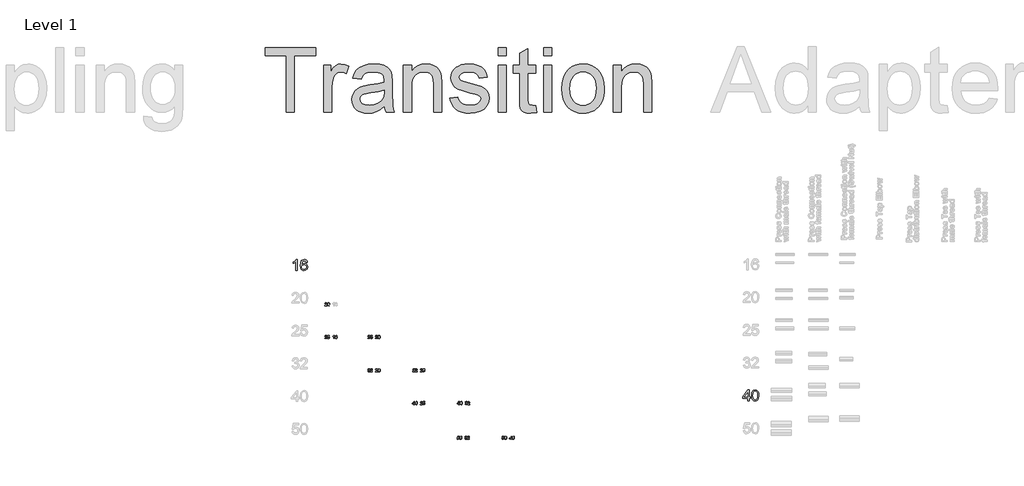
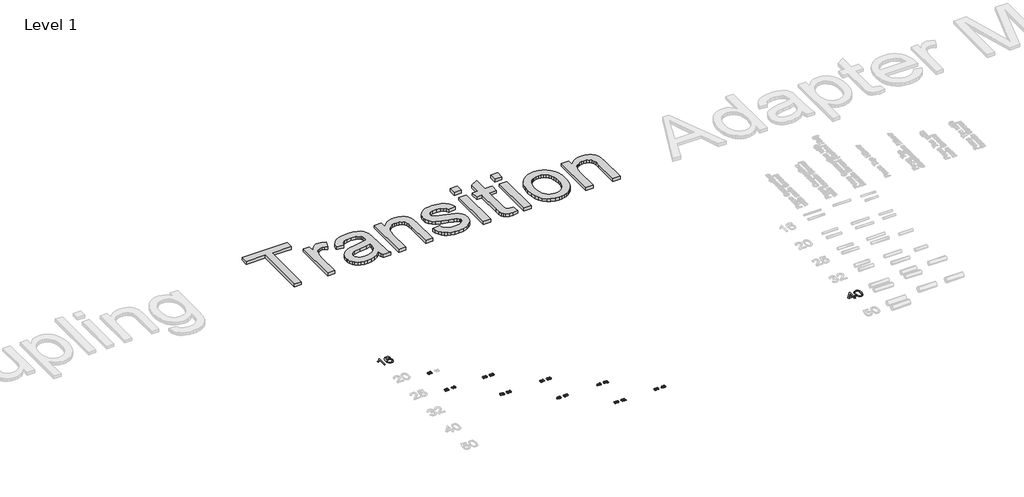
# One storey, part 40 of 58: 20 proxies.
"""IFC4 building model written with IfcOpenShell, lengths in millimetres."""

from ifc_helpers import new_model, si_unit, frame, origin, place, context, project, spatial, polyline, outline, extrude, element, save

model = new_model("IFC4")

# Units and contexts
model_context = context("Model", 3, world=origin())
ifc_project = project(units=[si_unit("LENGTHUNIT", "METRE", prefix="MILLI")], contexts=[model_context])

# Site, building, storey
site = spatial("IfcSite", under=ifc_project)
building = spatial("IfcBuilding", under=site)
storey = spatial("IfcBuildingStorey", under=building, Name="Level 1", Elevation=27.3876384)

# Proxies
placement = place(None, origin())
element("IfcBuildingElementProxy", 1, Name="100mm Arial", ObjectType="100mm Arial", at=placement, inside=storey, context=model_context, shape_type="SweptSolid", body=[
    extrude(outline(polyline([(29112.1702959, 28945.9751784), (29112.1702959, 28969.5196261), (29066.6510304, 28969.5196261), (29066.6510304, 28982.0766649), (29115.3095556, 29044.8618587), (29124.7273347, 29044.8618587), (29124.7273347, 28982.0766649), (29137.2843734, 28982.0766649), (29137.2843734, 28969.5196261), (29124.7273347, 28969.5196261), (29124.7273347, 28945.9751784), (29112.1702959, 28945.9751784)]), holes=[polyline([(29112.1702959, 28982.0766649), (29112.1702959, 29020.8759526), (29082.1020742, 28982.0766649), (29112.1702959, 28982.0766649)])]), frame((0.0, 0.0, 27.3876384), z_axis=(0.0, 0.0, 1.0), x_axis=(1.0, 0.0, 0.0)), (0.0, 0.0, 1.0), 2.0),
    extrude(outline(polyline([(29148.2717824, 28995.3939931), (29151.9628651, 29024.2972552), (29162.9257485, 29040.9623096), (29181.2340091, 29046.4314885), (29195.900238, 29043.194127), (29206.0292556, 29033.862187), (29211.9153675, 29018.9997544), (29214.1962359, 28995.3939931), (29210.5419414, 28966.6133583), (29199.6158462, 28949.9115157), (29191.3844865, 28945.7820404), (29181.2340091, 28944.4055486), (29168.186461, 28946.7967815), (29158.2781726, 28953.9704804), (29150.7733799, 28970.9604972), (29148.2717824, 28995.3939931)]), holes=[polyline([(29160.8288211, 28995.4185186), (29162.3003491, 28975.6663211), (29166.7149331, 28964.2343881), (29173.287758, 28958.7805375), (29181.2340091, 28956.9625873), (29189.1802602, 28958.7866689), (29195.7530852, 28964.2589136), (29200.1676692, 28975.6969779), (29201.6391971, 28995.4185186), (29200.2167201, 29014.7261919), (29195.9492889, 29026.2470297), (29189.3887267, 29031.9675948), (29181.0868563, 29033.8744498), (29173.2264444, 29032.1944553), (29166.9111368, 29027.154472), (29162.3494001, 29014.9162643), (29160.8288211, 28995.4185186)])]), frame((0.0, 0.0, 27.3876384), z_axis=(0.0, 0.0, 1.0), x_axis=(1.0, 0.0, 0.0)), (0.0, 0.0, 1.0), 2.0),
])
element("IfcBuildingElementProxy", 2, Name="100mm Arial", ObjectType="100mm Arial", at=placement, inside=storey, context=model_context, shape_type="SweptSolid", body=[
    extrude(outline(polyline([(24991.5703727, 30140.2967064), (24979.0133339, 30140.2967064), (24979.0133339, 30218.5819949), (24967.1184827, 30210.1084463), (24953.8992564, 30203.7686133), (24953.8992564, 30215.638939), (24972.3056189, 30227.3866373), (24983.4769688, 30240.7530165), (24991.5703727, 30240.7530165), (24991.5703727, 30140.2967064)])), frame((0.0, 0.0, 27.3876384), z_axis=(0.0, 0.0, 1.0), x_axis=(1.0, 0.0, 0.0)), (0.0, 0.0, 1.0), 2.0),
    extrude(outline(polyline([(25085.7481635, 30214.0693091), (25073.1911247, 30212.4996793), (25068.4331842, 30222.9720534), (25055.85162, 30228.1959777), (25044.5208545, 30225.1548199), (25035.949204, 30213.7382153), (25032.3807487, 30191.3587273), (25043.4539967, 30201.3773803), (25057.1759952, 30204.65153), (25068.7765407, 30202.4135812), (25078.5131509, 30195.6997348), (25085.1166327, 30185.4419585), (25087.3177933, 30172.5722201), (25083.1729895, 30155.2449781), (25071.7686476, 30142.9822449), (25055.3120597, 30138.7270765), (25041.0658295, 30141.5475051), (25029.7197356, 30150.008791), (25022.2977163, 30164.9448), (25019.8237099, 30187.189398), (25022.5705621, 30212.1992423), (25030.8111188, 30229.2996237), (25042.0621765, 30237.8896683), (25056.6364349, 30240.7530165), (25067.6545007, 30238.9810516), (25076.4775372, 30233.6651567), (25082.6579547, 30225.2222649), (25085.7481635, 30214.0693091)]), holes=[polyline([(25032.3807487, 30172.7684238), (25035.2870164, 30161.8913795), (25043.0125383, 30153.9941793), (25054.3310411, 30151.2841153), (25062.617583, 30152.6881982), (25069.13216, 30156.9004471), (25073.3536059, 30163.522323), (25074.7607545, 30172.1552871), (25073.372, 30180.4418291), (25069.2057364, 30186.7602023), (25062.5807948, 30190.760919), (25053.8160063, 30192.0944913), (25038.6224799, 30186.7602023), (25033.9411815, 30180.5951132), (25032.3807487, 30172.7684238)])]), frame((0.0, 0.0, 27.3876384), z_axis=(0.0, 0.0, 1.0), x_axis=(1.0, 0.0, 0.0)), (0.0, 0.0, 1.0), 2.0),
])
element("IfcBuildingElementProxy", 3, Name="30mm Arial", ObjectType="30mm Arial", at=placement, inside=storey, context=model_context, shape_type="SweptSolid", body=[
    extrude(outline(polyline([(25264.9129392, 29819.4254174), (25264.9129392, 29815.6583057), (25245.1356031, 29815.6583057), (25245.5402733, 29818.2555526), (25247.8284993, 29822.2544299), (25252.5447465, 29826.6211892), (25259.0489002, 29832.897256), (25260.6749386, 29837.1646872), (25259.1408707, 29840.6190991), (25255.1346357, 29842.0280872), (25250.9591751, 29840.6522085), (25249.3736037, 29836.8483087), (25245.6064921, 29837.3191976), (25248.4943657, 29843.624695), (25255.2155698, 29845.7951988), (25261.9588468, 29843.3818929), (25264.4420502, 29837.392774), (25263.772505, 29833.8206399), (25261.5468189, 29830.1271046), (25256.1499901, 29824.9657202), (25251.8163401, 29821.3420826), (25250.1167253, 29819.4254174), (25264.9129392, 29819.4254174)])), frame((0.0, 0.0, 27.3876384), z_axis=(0.0, 0.0, 1.0), x_axis=(1.0, 0.0, 0.0)), (0.0, 0.0, 1.0), 2.0),
    extrude(outline(polyline([(25268.6800508, 29830.4839502), (25269.7873756, 29839.1549288), (25273.0762407, 29844.1544451), (25278.5687188, 29845.7951988), (25282.9685875, 29844.8239903), (25286.0072928, 29842.0244083), (25287.7731264, 29837.5656786), (25288.4573869, 29830.4839502), (25287.3610985, 29821.8497597), (25284.0832699, 29816.839207), (25278.5687188, 29815.1874168), (25271.6819679, 29818.0568964), (25268.6800508, 29830.4839502)]), holes=[polyline([(25272.4471624, 29830.4913078), (25274.212996, 29821.1360687), (25278.5687188, 29818.9545284), (25282.9244417, 29821.1434263), (25284.6902752, 29830.4913078), (25282.9833028, 29839.7398612), (25278.524573, 29842.0280872), (25274.2718571, 29840.0120938), (25272.4471624, 29830.4913078)])]), frame((0.0, 0.0, 27.3876384), z_axis=(0.0, 0.0, 1.0), x_axis=(1.0, 0.0, 0.0)), (0.0, 0.0, 1.0), 2.0),
])
element("IfcBuildingElementProxy", 4, Name="30mm Arial", ObjectType="30mm Arial", at=placement, inside=storey, context=model_context, shape_type="SweptSolid", body=[
    extrude(outline(polyline([(25329.7331607, 29515.6583057), (25325.9660491, 29515.6583057), (25325.9660491, 29539.1438923), (25322.3975937, 29536.6018277), (25318.4318258, 29534.6998778), (25318.4318258, 29538.2609755), (25323.9537345, 29541.785285), (25327.3051395, 29545.7951988), (25329.7331607, 29545.7951988), (25329.7331607, 29515.6583057)])), frame((0.0, 0.0, 27.3876384), z_axis=(0.0, 0.0, 1.0), x_axis=(1.0, 0.0, 0.0)), (0.0, 0.0, 1.0), 2.0),
    extrude(outline(polyline([(25357.9864979, 29537.7900866), (25354.2193863, 29537.3191976), (25352.7920041, 29540.4609099), (25349.0175349, 29542.0280872), (25345.6183052, 29541.1157398), (25343.0468101, 29537.6907584), (25341.9762735, 29530.976912), (25345.2982479, 29533.9825079), (25349.4148474, 29534.9647529), (25355.8159941, 29532.2792143), (25358.4573869, 29525.3409599), (25357.2139457, 29520.1427873), (25353.7926432, 29516.4639673), (25348.8556668, 29515.1874168), (25341.1779696, 29518.5719312), (25338.2091619, 29529.7261132), (25341.5053845, 29542.359181), (25349.2529794, 29545.7951988), (25355.20531, 29543.6688409), (25357.9864979, 29537.7900866)]), holes=[polyline([(25341.9762735, 29525.399821), (25342.8481538, 29522.1367077), (25345.1658104, 29519.7675476), (25348.5613612, 29518.9545284), (25353.0016969, 29520.639428), (25354.6902752, 29525.21588), (25353.0237698, 29529.5973545), (25348.4068508, 29531.1976412), (25343.8487928, 29529.5973545), (25341.9762735, 29525.399821)])]), frame((0.0, 0.0, 27.3876384), z_axis=(0.0, 0.0, 1.0), x_axis=(1.0, 0.0, 0.0)), (0.0, 0.0, 1.0), 2.0),
])
element("IfcBuildingElementProxy", 5, Name="30mm Arial", ObjectType="30mm Arial", at=placement, inside=storey, context=model_context, shape_type="SweptSolid", body=[
    extrude(outline(polyline([(25264.9129392, 29519.4254174), (25264.9129392, 29515.6583057), (25245.1356031, 29515.6583057), (25245.5402733, 29518.2555526), (25247.8284993, 29522.2544299), (25252.5447465, 29526.6211892), (25259.0489002, 29532.897256), (25260.6749386, 29537.1646872), (25259.1408707, 29540.6190991), (25255.1346357, 29542.0280872), (25250.9591751, 29540.6522085), (25249.3736037, 29536.8483087), (25245.6064921, 29537.3191976), (25248.4943657, 29543.624695), (25255.2155698, 29545.7951988), (25261.9588468, 29543.3818929), (25264.4420502, 29537.392774), (25263.772505, 29533.8206399), (25261.5468189, 29530.1271046), (25256.1499901, 29524.9657202), (25251.8163401, 29521.3420826), (25250.1167253, 29519.4254174), (25264.9129392, 29519.4254174)])), frame((0.0, 0.0, 27.3876384), z_axis=(0.0, 0.0, 1.0), x_axis=(1.0, 0.0, 0.0)), (0.0, 0.0, 1.0), 2.0),
    extrude(outline(polyline([(25268.6800508, 29523.663418), (25272.4471624, 29524.1343069), (25274.3454335, 29520.2531519), (25278.2817709, 29518.9545284), (25283.0053757, 29520.760829), (25284.6902752, 29525.5543314), (25283.1120615, 29530.0277765), (25278.340632, 29531.6685302), (25275.0333729, 29531.0137002), (25272.9180514, 29529.3140854), (25269.1509398, 29529.7849744), (25272.4471624, 29545.3243098), (25287.04472, 29545.3243098), (25287.04472, 29541.5571982), (25275.4932254, 29541.5571982), (25273.8819022, 29533.2577804), (25279.3927745, 29535.4356418), (25285.8343882, 29532.735388), (25288.4573869, 29525.7897759), (25286.0955845, 29518.800018), (25278.2670556, 29515.1874168), (25271.619428, 29517.5087522), (25268.6800508, 29523.663418)])), frame((0.0, 0.0, 27.3876384), z_axis=(0.0, 0.0, 1.0), x_axis=(1.0, 0.0, 0.0)), (0.0, 0.0, 1.0), 2.0),
])
element("IfcBuildingElementProxy", 6, Name="30mm Arial", ObjectType="30mm Arial", at=placement, inside=storey, context=model_context, shape_type="SweptSolid", body=[
    extrude(outline(polyline([(25727.3514627, 29519.4254174), (25727.3514627, 29515.6583057), (25707.5741267, 29515.6583057), (25707.9787969, 29518.2555526), (25710.2670229, 29522.2544299), (25714.9832701, 29526.6211892), (25721.4874237, 29532.897256), (25723.1134621, 29537.1646872), (25721.5793942, 29540.6190991), (25717.5731593, 29542.0280872), (25713.3976987, 29540.6522085), (25711.8121273, 29536.8483087), (25708.0450156, 29537.3191976), (25710.9328893, 29543.624695), (25717.6540933, 29545.7951988), (25724.3973703, 29543.3818929), (25726.8805738, 29537.392774), (25726.2110285, 29533.8206399), (25723.9853425, 29530.1271046), (25718.5885136, 29524.9657202), (25714.2548637, 29521.3420826), (25712.5552489, 29519.4254174), (25727.3514627, 29519.4254174)])), frame((0.0, 0.0, 27.3876384), z_axis=(0.0, 0.0, 1.0), x_axis=(1.0, 0.0, 0.0)), (0.0, 0.0, 1.0), 2.0),
    extrude(outline(polyline([(25731.1185744, 29530.4839502), (25732.2258992, 29539.1549288), (25735.5147642, 29544.1544451), (25741.0072424, 29545.7951988), (25745.4071111, 29544.8239903), (25748.4458163, 29542.0244083), (25750.2116499, 29537.5656786), (25750.8959104, 29530.4839502), (25749.7996221, 29521.8497597), (25746.5217935, 29516.839207), (25741.0072424, 29515.1874168), (25734.1204914, 29518.0568964), (25731.1185744, 29530.4839502)]), holes=[polyline([(25734.885686, 29530.4913078), (25736.6515196, 29521.1360687), (25741.0072424, 29518.9545284), (25745.3629652, 29521.1434263), (25747.1287988, 29530.4913078), (25745.4218263, 29539.7398612), (25740.9630966, 29542.0280872), (25736.7103807, 29540.0120938), (25734.885686, 29530.4913078)])]), frame((0.0, 0.0, 27.3876384), z_axis=(0.0, 0.0, 1.0), x_axis=(1.0, 0.0, 0.0)), (0.0, 0.0, 1.0), 2.0),
])
element("IfcBuildingElementProxy", 7, Name="30mm Arial", ObjectType="30mm Arial", at=placement, inside=storey, context=model_context, shape_type="SweptSolid", body=[
    extrude(outline(polyline([(25657.3514627, 29519.4254174), (25657.3514627, 29515.6583057), (25637.5741267, 29515.6583057), (25637.9787969, 29518.2555526), (25640.2670229, 29522.2544299), (25644.9832701, 29526.6211892), (25651.4874237, 29532.897256), (25653.1134621, 29537.1646872), (25651.5793942, 29540.6190991), (25647.5731593, 29542.0280872), (25643.3976987, 29540.6522085), (25641.8121273, 29536.8483087), (25638.0450156, 29537.3191976), (25640.9328893, 29543.624695), (25647.6540933, 29545.7951988), (25654.3973703, 29543.3818929), (25656.8805738, 29537.392774), (25656.2110285, 29533.8206399), (25653.9853425, 29530.1271046), (25648.5885136, 29524.9657202), (25644.2548637, 29521.3420826), (25642.5552489, 29519.4254174), (25657.3514627, 29519.4254174)])), frame((0.0, 0.0, 27.3876384), z_axis=(0.0, 0.0, 1.0), x_axis=(1.0, 0.0, 0.0)), (0.0, 0.0, 1.0), 2.0),
    extrude(outline(polyline([(25661.1185744, 29523.663418), (25664.885686, 29524.1343069), (25666.7839571, 29520.2531519), (25670.7202944, 29518.9545284), (25675.4438993, 29520.760829), (25677.1287988, 29525.5543314), (25675.550585, 29530.0277765), (25670.7791556, 29531.6685302), (25667.4718964, 29531.0137002), (25665.3565749, 29529.3140854), (25661.5894633, 29529.7849744), (25664.885686, 29545.3243098), (25679.4832436, 29545.3243098), (25679.4832436, 29541.5571982), (25667.9317489, 29541.5571982), (25666.3204258, 29533.2577804), (25671.8312981, 29535.4356418), (25678.2729118, 29532.735388), (25680.8959104, 29525.7897759), (25678.534108, 29518.800018), (25670.7055792, 29515.1874168), (25664.0579515, 29517.5087522), (25661.1185744, 29523.663418)])), frame((0.0, 0.0, 27.3876384), z_axis=(0.0, 0.0, 1.0), x_axis=(1.0, 0.0, 0.0)), (0.0, 0.0, 1.0), 2.0),
])
element("IfcBuildingElementProxy", 8, Name="30mm Arial", ObjectType="30mm Arial", at=placement, inside=storey, context=model_context, shape_type="SweptSolid", body=[
    extrude(outline(polyline([(25727.3514627, 29214.4254174), (25727.3514627, 29210.6583057), (25707.5741267, 29210.6583057), (25707.9787969, 29213.2555526), (25710.2670229, 29217.2544299), (25714.9832701, 29221.6211892), (25721.4874237, 29227.897256), (25723.1134621, 29232.1646872), (25721.5793942, 29235.6190991), (25717.5731593, 29237.0280872), (25713.3976987, 29235.6522085), (25711.8121273, 29231.8483087), (25708.0450156, 29232.3191976), (25710.9328893, 29238.624695), (25717.6540933, 29240.7951988), (25724.3973703, 29238.3818929), (25726.8805738, 29232.392774), (25726.2110285, 29228.8206399), (25723.9853425, 29225.1271046), (25718.5885136, 29219.9657202), (25714.2548637, 29216.3420826), (25712.5552489, 29214.4254174), (25727.3514627, 29214.4254174)])), frame((0.0, 0.0, 27.3876384), z_axis=(0.0, 0.0, 1.0), x_axis=(1.0, 0.0, 0.0)), (0.0, 0.0, 1.0), 2.0),
    extrude(outline(polyline([(25731.1185744, 29225.4839502), (25732.2258992, 29234.1549288), (25735.5147642, 29239.1544451), (25741.0072424, 29240.7951988), (25745.4071111, 29239.8239903), (25748.4458163, 29237.0244083), (25750.2116499, 29232.5656786), (25750.8959104, 29225.4839502), (25749.7996221, 29216.8497597), (25746.5217935, 29211.839207), (25741.0072424, 29210.1874168), (25734.1204914, 29213.0568964), (25731.1185744, 29225.4839502)]), holes=[polyline([(25734.885686, 29225.4913078), (25736.6515196, 29216.1360687), (25741.0072424, 29213.9545284), (25745.3629652, 29216.1434263), (25747.1287988, 29225.4913078), (25745.4218263, 29234.7398612), (25740.9630966, 29237.0280872), (25736.7103807, 29235.0120938), (25734.885686, 29225.4913078)])]), frame((0.0, 0.0, 27.3876384), z_axis=(0.0, 0.0, 1.0), x_axis=(1.0, 0.0, 0.0)), (0.0, 0.0, 1.0), 2.0),
])
element("IfcBuildingElementProxy", 9, Name="30mm Arial", ObjectType="30mm Arial", at=placement, inside=storey, context=model_context, shape_type="SweptSolid", body=[
    extrude(outline(polyline([(25638.0450156, 29218.663418), (25641.8121273, 29219.1343069), (25643.8906605, 29215.168539), (25647.7791732, 29213.9545284), (25652.3556252, 29215.6247127), (25654.0552401, 29219.7597063), (25652.3703405, 29223.6555766), (25648.0881941, 29225.1970022), (25645.4468014, 29224.7849744), (25645.8661868, 29228.552086), (25650.7443021, 29229.5895132), (25652.6425732, 29232.9151665), (25651.2666945, 29235.8619012), (25647.7203121, 29237.0280872), (25644.1297838, 29235.8508648), (25642.2830162, 29232.3191976), (25638.5159046, 29232.7900866), (25641.5987557, 29238.6982714), (25647.5878746, 29240.7951988), (25652.1312172, 29239.7614504), (25655.3097177, 29236.9361167), (25656.4096848, 29233.1358957), (25655.3649, 29229.6630896), (25652.2746912, 29227.1688497), (25656.3802543, 29224.5936757), (25657.8223517, 29219.6934876), (25654.9381568, 29212.9538894), (25647.6467357, 29210.1874168), (25641.0395751, 29212.5492192), (25638.0450156, 29218.663418)])), frame((0.0, 0.0, 27.3876384), z_axis=(0.0, 0.0, 1.0), x_axis=(1.0, 0.0, 0.0)), (0.0, 0.0, 1.0), 2.0),
    extrude(outline(polyline([(25680.4250215, 29214.4254174), (25680.4250215, 29210.6583057), (25660.6476854, 29210.6583057), (25661.0523556, 29213.2555526), (25663.3405816, 29217.2544299), (25668.0568288, 29221.6211892), (25674.5609825, 29227.897256), (25676.1870209, 29232.1646872), (25674.652953, 29235.6190991), (25670.646718, 29237.0280872), (25666.4712574, 29235.6522085), (25664.885686, 29231.8483087), (25661.1185744, 29232.3191976), (25664.006448, 29238.624695), (25670.7276521, 29240.7951988), (25677.470929, 29238.3818929), (25679.9541325, 29232.392774), (25679.2845873, 29228.8206399), (25677.0589012, 29225.1271046), (25671.6620723, 29219.9657202), (25667.3284224, 29216.3420826), (25665.6288076, 29214.4254174), (25680.4250215, 29214.4254174)])), frame((0.0, 0.0, 27.3876384), z_axis=(0.0, 0.0, 1.0), x_axis=(1.0, 0.0, 0.0)), (0.0, 0.0, 1.0), 2.0),
])
element("IfcBuildingElementProxy", 10, Name="30mm Arial", ObjectType="30mm Arial", at=placement, inside=storey, context=model_context, shape_type="SweptSolid", body=[
    extrude(outline(polyline([(26137.3514627, 29214.4254174), (26137.3514627, 29210.6583057), (26117.5741267, 29210.6583057), (26117.9787969, 29213.2555526), (26120.2670229, 29217.2544299), (26124.9832701, 29221.6211892), (26131.4874237, 29227.897256), (26133.1134621, 29232.1646872), (26131.5793942, 29235.6190991), (26127.5731593, 29237.0280872), (26123.3976987, 29235.6522085), (26121.8121273, 29231.8483087), (26118.0450156, 29232.3191976), (26120.9328893, 29238.624695), (26127.6540933, 29240.7951988), (26134.3973703, 29238.3818929), (26136.8805738, 29232.392774), (26136.2110285, 29228.8206399), (26133.9853425, 29225.1271046), (26128.5885136, 29219.9657202), (26124.2548637, 29216.3420826), (26122.5552489, 29214.4254174), (26137.3514627, 29214.4254174)])), frame((0.0, 0.0, 27.3876384), z_axis=(0.0, 0.0, 1.0), x_axis=(1.0, 0.0, 0.0)), (0.0, 0.0, 1.0), 2.0),
    extrude(outline(polyline([(26141.1185744, 29218.663418), (26144.885686, 29219.1343069), (26146.7839571, 29215.2531519), (26150.7202944, 29213.9545284), (26155.4438993, 29215.760829), (26157.1287988, 29220.5543314), (26155.550585, 29225.0277765), (26150.7791556, 29226.6685302), (26147.4718964, 29226.0137002), (26145.3565749, 29224.3140854), (26141.5894633, 29224.7849744), (26144.885686, 29240.3243098), (26159.4832436, 29240.3243098), (26159.4832436, 29236.5571982), (26147.9317489, 29236.5571982), (26146.3204258, 29228.2577804), (26151.8312981, 29230.4356418), (26158.2729118, 29227.735388), (26160.8959104, 29220.7897759), (26158.534108, 29213.800018), (26150.7055792, 29210.1874168), (26144.0579515, 29212.5087522), (26141.1185744, 29218.663418)])), frame((0.0, 0.0, 27.3876384), z_axis=(0.0, 0.0, 1.0), x_axis=(1.0, 0.0, 0.0)), (0.0, 0.0, 1.0), 2.0),
])
element("IfcBuildingElementProxy", 11, Name="30mm Arial", ObjectType="30mm Arial", at=placement, inside=storey, context=model_context, shape_type="SweptSolid", body=[
    extrude(outline(polyline([(26048.0450156, 29218.663418), (26051.8121273, 29219.1343069), (26053.8906605, 29215.168539), (26057.7791732, 29213.9545284), (26062.3556252, 29215.6247127), (26064.0552401, 29219.7597063), (26062.3703405, 29223.6555766), (26058.0881941, 29225.1970022), (26055.4468014, 29224.7849744), (26055.8661868, 29228.552086), (26060.7443021, 29229.5895132), (26062.6425732, 29232.9151665), (26061.2666945, 29235.8619012), (26057.7203121, 29237.0280872), (26054.1297838, 29235.8508648), (26052.2830162, 29232.3191976), (26048.5159046, 29232.7900866), (26051.5987557, 29238.6982714), (26057.5878746, 29240.7951988), (26062.1312172, 29239.7614504), (26065.3097177, 29236.9361167), (26066.4096848, 29233.1358957), (26065.3649, 29229.6630896), (26062.2746912, 29227.1688497), (26066.3802543, 29224.5936757), (26067.8223517, 29219.6934876), (26064.9381568, 29212.9538894), (26057.6467357, 29210.1874168), (26051.0395751, 29212.5492192), (26048.0450156, 29218.663418)])), frame((0.0, 0.0, 27.3876384), z_axis=(0.0, 0.0, 1.0), x_axis=(1.0, 0.0, 0.0)), (0.0, 0.0, 1.0), 2.0),
    extrude(outline(polyline([(26090.4250215, 29214.4254174), (26090.4250215, 29210.6583057), (26070.6476854, 29210.6583057), (26071.0523556, 29213.2555526), (26073.3405816, 29217.2544299), (26078.0568288, 29221.6211892), (26084.5609825, 29227.897256), (26086.1870209, 29232.1646872), (26084.652953, 29235.6190991), (26080.646718, 29237.0280872), (26076.4712574, 29235.6522085), (26074.885686, 29231.8483087), (26071.1185744, 29232.3191976), (26074.006448, 29238.624695), (26080.7276521, 29240.7951988), (26087.470929, 29238.3818929), (26089.9541325, 29232.392774), (26089.2845873, 29228.8206399), (26087.0589012, 29225.1271046), (26081.6620723, 29219.9657202), (26077.3284224, 29216.3420826), (26075.6288076, 29214.4254174), (26090.4250215, 29214.4254174)])), frame((0.0, 0.0, 27.3876384), z_axis=(0.0, 0.0, 1.0), x_axis=(1.0, 0.0, 0.0)), (0.0, 0.0, 1.0), 2.0),
])
element("IfcBuildingElementProxy", 12, Name="30mm Arial", ObjectType="30mm Arial", at=placement, inside=storey, context=model_context, shape_type="SweptSolid", body=[
    extrude(outline(polyline([(26137.1168566, 28914.4238163), (26137.1168566, 28910.6567047), (26117.3395206, 28910.6567047), (26117.7441908, 28913.2539516), (26120.0324168, 28917.2528288), (26124.7486639, 28921.6195881), (26131.2528176, 28927.895655), (26132.878856, 28932.1630861), (26131.3447881, 28935.617498), (26127.3385532, 28937.0264861), (26123.1630925, 28935.6506074), (26121.5775211, 28931.8467076), (26117.8104095, 28932.3175965), (26120.6982832, 28938.6230939), (26127.4194872, 28940.7935977), (26134.1627642, 28938.3802918), (26136.6459677, 28932.3911729), (26135.9764224, 28928.8190388), (26133.7507364, 28925.1255035), (26128.3539075, 28919.9641191), (26124.0202576, 28916.3404815), (26122.3206428, 28914.4238163), (26137.1168566, 28914.4238163)])), frame((0.0, 0.0, 27.3876384), z_axis=(0.0, 0.0, 1.0), x_axis=(1.0, 0.0, 0.0)), (0.0, 0.0, 1.0), 2.0),
    extrude(outline(polyline([(26140.8839683, 28918.6618169), (26144.6510799, 28919.1327058), (26146.549351, 28915.2515508), (26150.4856883, 28913.9529273), (26155.2092931, 28915.7592279), (26156.8941927, 28920.5527303), (26155.3159789, 28925.0261754), (26150.5445494, 28926.6669291), (26147.2372903, 28926.0120991), (26145.1219688, 28924.3124843), (26141.3548572, 28924.7833733), (26144.6510799, 28940.3227088), (26159.2486374, 28940.3227088), (26159.2486374, 28936.5555971), (26147.6971428, 28936.5555971), (26146.0858197, 28928.2561793), (26151.596692, 28930.4340407), (26158.0383057, 28927.7337869), (26160.6613043, 28920.7881748), (26158.2995019, 28913.7984169), (26150.470973, 28910.1858157), (26143.8233454, 28912.5071511), (26140.8839683, 28918.6618169)])), frame((0.0, 0.0, 27.3876384), z_axis=(0.0, 0.0, 1.0), x_axis=(1.0, 0.0, 0.0)), (0.0, 0.0, 1.0), 2.0),
])
element("IfcBuildingElementProxy", 13, Name="30mm Arial", ObjectType="30mm Arial", at=placement, inside=storey, context=model_context, shape_type="SweptSolid", body=[
    extrude(outline(polyline([(26060.0535223, 28910.6567047), (26060.0535223, 28917.720039), (26046.3977427, 28917.720039), (26046.3977427, 28921.4871506), (26060.9953002, 28940.3227088), (26063.8206339, 28940.3227088), (26063.8206339, 28921.4871506), (26067.5877456, 28921.4871506), (26067.5877456, 28917.720039), (26063.8206339, 28917.720039), (26063.8206339, 28910.6567047), (26060.0535223, 28910.6567047)]), holes=[polyline([(26060.0535223, 28921.4871506), (26060.0535223, 28933.1269369), (26051.0330558, 28921.4871506), (26060.0535223, 28921.4871506)])]), frame((0.0, 0.0, 27.3876384), z_axis=(0.0, 0.0, 1.0), x_axis=(1.0, 0.0, 0.0)), (0.0, 0.0, 1.0), 2.0),
    extrude(outline(polyline([(26070.8839683, 28925.4823491), (26071.9912931, 28934.1533277), (26075.2801581, 28939.152844), (26080.7726363, 28940.7935977), (26085.1725049, 28939.8223892), (26088.2112102, 28937.0228073), (26089.9770438, 28932.5640775), (26090.6613043, 28925.4823491), (26089.565016, 28916.8481586), (26086.2871874, 28911.8376059), (26080.7726363, 28910.1858157), (26073.8858853, 28913.0552953), (26070.8839683, 28925.4823491)]), holes=[polyline([(26074.6510799, 28925.4897067), (26076.4169135, 28916.1344676), (26080.7726363, 28913.9529273), (26085.1283591, 28916.1418252), (26086.8941927, 28925.4897067), (26085.1872202, 28934.7382601), (26080.7284904, 28937.0264861), (26076.4757746, 28935.0104927), (26074.6510799, 28925.4897067)])]), frame((0.0, 0.0, 27.3876384), z_axis=(0.0, 0.0, 1.0), x_axis=(1.0, 0.0, 0.0)), (0.0, 0.0, 1.0), 2.0),
])
element("IfcBuildingElementProxy", 14, Name="30mm Arial", ObjectType="30mm Arial", at=placement, inside=storey, context=model_context, shape_type="SweptSolid", body=[
    extrude(outline(polyline([(26527.8104095, 28918.6618169), (26531.5775211, 28919.1327058), (26533.6560544, 28915.1669379), (26537.5445671, 28913.9529273), (26542.1210191, 28915.6231116), (26543.8206339, 28919.7581052), (26542.1357344, 28923.6539756), (26537.853588, 28925.1954011), (26535.2121953, 28924.7833733), (26535.6315807, 28928.5504849), (26540.509696, 28929.5879121), (26542.4079671, 28932.9135654), (26541.0320884, 28935.8603002), (26537.485706, 28937.0264861), (26533.8951777, 28935.8492637), (26532.0484101, 28932.3175965), (26528.2812985, 28932.7884855), (26531.3641496, 28938.6966703), (26537.3532685, 28940.7935977), (26541.8966111, 28939.7598493), (26545.0751115, 28936.9345156), (26546.1750787, 28933.1342946), (26545.1302938, 28929.6614885), (26542.0400851, 28927.1672486), (26546.1456482, 28924.5920746), (26547.5877456, 28919.6918865), (26544.7035507, 28912.9522883), (26537.4121296, 28910.1858157), (26530.804969, 28912.5476181), (26527.8104095, 28918.6618169)])), frame((0.0, 0.0, 27.3876384), z_axis=(0.0, 0.0, 1.0), x_axis=(1.0, 0.0, 0.0)), (0.0, 0.0, 1.0), 2.0),
    extrude(outline(polyline([(26570.1904154, 28914.4238163), (26570.1904154, 28910.6567047), (26550.4130793, 28910.6567047), (26550.8177495, 28913.2539516), (26553.1059755, 28917.2528288), (26557.8222227, 28921.6195881), (26564.3263764, 28927.895655), (26565.9524148, 28932.1630861), (26564.4183469, 28935.617498), (26560.4121119, 28937.0264861), (26556.2366513, 28935.6506074), (26554.6510799, 28931.8467076), (26550.8839683, 28932.3175965), (26553.7718419, 28938.6230939), (26560.493046, 28940.7935977), (26567.2363229, 28938.3802918), (26569.7195264, 28932.3911729), (26569.0499812, 28928.8190388), (26566.8242951, 28925.1255035), (26561.4274662, 28919.9641191), (26557.0938163, 28916.3404815), (26555.3942015, 28914.4238163), (26570.1904154, 28914.4238163)])), frame((0.0, 0.0, 27.3876384), z_axis=(0.0, 0.0, 1.0), x_axis=(1.0, 0.0, 0.0)), (0.0, 0.0, 1.0), 2.0),
])
element("IfcBuildingElementProxy", 15, Name="30mm Arial", ObjectType="30mm Arial", at=placement, inside=storey, context=model_context, shape_type="SweptSolid", body=[
    extrude(outline(polyline([(26470.0535223, 28910.6567047), (26470.0535223, 28917.720039), (26456.3977427, 28917.720039), (26456.3977427, 28921.4871506), (26470.9953002, 28940.3227088), (26473.8206339, 28940.3227088), (26473.8206339, 28921.4871506), (26477.5877456, 28921.4871506), (26477.5877456, 28917.720039), (26473.8206339, 28917.720039), (26473.8206339, 28910.6567047), (26470.0535223, 28910.6567047)]), holes=[polyline([(26470.0535223, 28921.4871506), (26470.0535223, 28933.1269369), (26461.0330558, 28921.4871506), (26470.0535223, 28921.4871506)])]), frame((0.0, 0.0, 27.3876384), z_axis=(0.0, 0.0, 1.0), x_axis=(1.0, 0.0, 0.0)), (0.0, 0.0, 1.0), 2.0),
    extrude(outline(polyline([(26480.8839683, 28925.4823491), (26481.9912931, 28934.1533277), (26485.2801581, 28939.152844), (26490.7726363, 28940.7935977), (26495.1725049, 28939.8223892), (26498.2112102, 28937.0228073), (26499.9770438, 28932.5640775), (26500.6613043, 28925.4823491), (26499.565016, 28916.8481586), (26496.2871874, 28911.8376059), (26490.7726363, 28910.1858157), (26483.8858853, 28913.0552953), (26480.8839683, 28925.4823491)]), holes=[polyline([(26484.6510799, 28925.4897067), (26486.4169135, 28916.1344676), (26490.7726363, 28913.9529273), (26495.1283591, 28916.1418252), (26496.8941927, 28925.4897067), (26495.1872202, 28934.7382601), (26490.7284904, 28937.0264861), (26486.4757746, 28935.0104927), (26484.6510799, 28925.4897067)])]), frame((0.0, 0.0, 27.3876384), z_axis=(0.0, 0.0, 1.0), x_axis=(1.0, 0.0, 0.0)), (0.0, 0.0, 1.0), 2.0),
])
element("IfcBuildingElementProxy", 16, Name="30mm Arial", ObjectType="30mm Arial", at=placement, inside=storey, context=model_context, shape_type="SweptSolid", body=[
    extrude(outline(polyline([(26525.0049613, 28601.5164751), (26528.7720729, 28601.987364), (26530.8506062, 28598.0215961), (26534.7391189, 28596.8075855), (26539.3155709, 28598.4777698), (26541.0151857, 28602.6127634), (26539.3302862, 28606.5086337), (26535.0481398, 28608.0500593), (26532.406747, 28607.6380315), (26532.8261325, 28611.4051431), (26537.7042478, 28612.4425703), (26539.6025189, 28615.7682236), (26538.2266402, 28618.7149583), (26534.6802578, 28619.8811443), (26531.0897295, 28618.7039219), (26529.2429619, 28615.1722547), (26525.4758502, 28615.6431437), (26528.5587014, 28621.5513285), (26534.5478202, 28623.6482559), (26539.0911629, 28622.6145075), (26542.2696633, 28619.7891738), (26543.3696305, 28615.9889528), (26542.3248456, 28612.5161467), (26539.2346369, 28610.0219068), (26543.3401999, 28607.4467328), (26544.7822973, 28602.5465447), (26541.8981025, 28595.8069465), (26534.6066814, 28593.0404739), (26527.9995207, 28595.4022763), (26525.0049613, 28601.5164751)])), frame((0.0, 0.0, 27.3876384), z_axis=(0.0, 0.0, 1.0), x_axis=(1.0, 0.0, 0.0)), (0.0, 0.0, 1.0), 2.0),
    extrude(outline(polyline([(26567.3849671, 28597.2784745), (26567.3849671, 28593.5113629), (26547.6076311, 28593.5113629), (26548.0123013, 28596.1086097), (26550.3005273, 28600.107487), (26555.0167745, 28604.4742463), (26561.5209281, 28610.7503132), (26563.1469665, 28615.0177443), (26561.6128986, 28618.4721562), (26557.6066637, 28619.8811443), (26553.4312031, 28618.5052656), (26551.8456317, 28614.7013658), (26548.07852, 28615.1722547), (26550.9663937, 28621.4777521), (26557.6875977, 28623.6482559), (26564.4308747, 28621.23495), (26566.9140782, 28615.2458311), (26566.2445329, 28611.673697), (26564.0188469, 28607.9801617), (26558.622018, 28602.8187773), (26554.2883681, 28599.1951397), (26552.5887533, 28597.2784745), (26567.3849671, 28597.2784745)])), frame((0.0, 0.0, 27.3876384), z_axis=(0.0, 0.0, 1.0), x_axis=(1.0, 0.0, 0.0)), (0.0, 0.0, 1.0), 2.0),
])
element("IfcBuildingElementProxy", 17, Name="30mm Arial", ObjectType="30mm Arial", at=placement, inside=storey, context=model_context, shape_type="SweptSolid", body=[
    extrude(outline(polyline([(26455.0049613, 28601.5164751), (26458.7720729, 28601.987364), (26460.670344, 28598.106209), (26464.6066814, 28596.8075855), (26469.3302862, 28598.6138861), (26471.0151857, 28603.4073885), (26469.436972, 28607.8808336), (26464.6655425, 28609.5215873), (26461.3582833, 28608.8667573), (26459.2429619, 28607.1671425), (26455.4758502, 28607.6380315), (26458.7720729, 28623.1773669), (26473.3696305, 28623.1773669), (26473.3696305, 28619.4102553), (26461.8181358, 28619.4102553), (26460.2068127, 28611.1108375), (26465.717685, 28613.2886989), (26472.1592987, 28610.5884451), (26474.7822973, 28603.642833), (26472.4204949, 28596.6530751), (26464.5919661, 28593.0404739), (26457.9443384, 28595.3618093), (26455.0049613, 28601.5164751)])), frame((0.0, 0.0, 27.3876384), z_axis=(0.0, 0.0, 1.0), x_axis=(1.0, 0.0, 0.0)), (0.0, 0.0, 1.0), 2.0),
    extrude(outline(polyline([(26478.07852, 28608.3370073), (26479.1858448, 28617.0079859), (26482.4747099, 28622.0075022), (26487.9671881, 28623.6482559), (26492.3670567, 28622.6770474), (26495.405762, 28619.8774655), (26497.1715956, 28615.4187357), (26497.8558561, 28608.3370073), (26496.7595677, 28599.7028168), (26493.4817392, 28594.6922641), (26487.9671881, 28593.0404739), (26481.0804371, 28595.9099535), (26478.07852, 28608.3370073)]), holes=[polyline([(26481.8456317, 28608.3443649), (26483.6114652, 28598.9891258), (26487.9671881, 28596.8075855), (26492.3229109, 28598.9964834), (26494.0887445, 28608.3443649), (26492.381772, 28617.5929183), (26487.9230422, 28619.8811443), (26483.6703264, 28617.8651509), (26481.8456317, 28608.3443649)])]), frame((0.0, 0.0, 27.3876384), z_axis=(0.0, 0.0, 1.0), x_axis=(1.0, 0.0, 0.0)), (0.0, 0.0, 1.0), 2.0),
])
element("IfcBuildingElementProxy", 18, Name="30mm Arial", ObjectType="30mm Arial", at=placement, inside=storey, context=model_context, shape_type="SweptSolid", body=[
    extrude(outline(polyline([(26947.2480741, 28593.5113629), (26947.2480741, 28600.5746972), (26933.5922944, 28600.5746972), (26933.5922944, 28604.3418088), (26948.189852, 28623.1773669), (26951.0151857, 28623.1773669), (26951.0151857, 28604.3418088), (26954.7822973, 28604.3418088), (26954.7822973, 28600.5746972), (26951.0151857, 28600.5746972), (26951.0151857, 28593.5113629), (26947.2480741, 28593.5113629)]), holes=[polyline([(26947.2480741, 28604.3418088), (26947.2480741, 28615.9815951), (26938.2276076, 28604.3418088), (26947.2480741, 28604.3418088)])]), frame((0.0, 0.0, 27.3876384), z_axis=(0.0, 0.0, 1.0), x_axis=(1.0, 0.0, 0.0)), (0.0, 0.0, 1.0), 2.0),
    extrude(outline(polyline([(26958.07852, 28608.3370073), (26959.1858448, 28617.0079859), (26962.4747099, 28622.0075022), (26967.9671881, 28623.6482559), (26972.3670567, 28622.6770474), (26975.405762, 28619.8774655), (26977.1715956, 28615.4187357), (26977.8558561, 28608.3370073), (26976.7595677, 28599.7028168), (26973.4817392, 28594.6922641), (26967.9671881, 28593.0404739), (26961.0804371, 28595.9099535), (26958.07852, 28608.3370073)]), holes=[polyline([(26961.8456317, 28608.3443649), (26963.6114652, 28598.9891258), (26967.9671881, 28596.8075855), (26972.3229109, 28598.9964834), (26974.0887445, 28608.3443649), (26972.381772, 28617.5929183), (26967.9230422, 28619.8811443), (26963.6703264, 28617.8651509), (26961.8456317, 28608.3443649)])]), frame((0.0, 0.0, 27.3876384), z_axis=(0.0, 0.0, 1.0), x_axis=(1.0, 0.0, 0.0)), (0.0, 0.0, 1.0), 2.0),
])
element("IfcBuildingElementProxy", 19, Name="30mm Arial", ObjectType="30mm Arial", at=placement, inside=storey, context=model_context, shape_type="SweptSolid", body=[
    extrude(outline(polyline([(26865.0049613, 28601.5164751), (26868.7720729, 28601.987364), (26870.670344, 28598.106209), (26874.6066814, 28596.8075855), (26879.3302862, 28598.6138861), (26881.0151857, 28603.4073885), (26879.436972, 28607.8808336), (26874.6655425, 28609.5215873), (26871.3582833, 28608.8667573), (26869.2429619, 28607.1671425), (26865.4758502, 28607.6380315), (26868.7720729, 28623.1773669), (26883.3696305, 28623.1773669), (26883.3696305, 28619.4102553), (26871.8181358, 28619.4102553), (26870.2068127, 28611.1108375), (26875.717685, 28613.2886989), (26882.1592987, 28610.5884451), (26884.7822973, 28603.642833), (26882.4204949, 28596.6530751), (26874.5919661, 28593.0404739), (26867.9443384, 28595.3618093), (26865.0049613, 28601.5164751)])), frame((0.0, 0.0, 27.3876384), z_axis=(0.0, 0.0, 1.0), x_axis=(1.0, 0.0, 0.0)), (0.0, 0.0, 1.0), 2.0),
    extrude(outline(polyline([(26888.07852, 28608.3370073), (26889.1858448, 28617.0079859), (26892.4747099, 28622.0075022), (26897.9671881, 28623.6482559), (26902.3670567, 28622.6770474), (26905.405762, 28619.8774655), (26907.1715956, 28615.4187357), (26907.8558561, 28608.3370073), (26906.7595677, 28599.7028168), (26903.4817392, 28594.6922641), (26897.9671881, 28593.0404739), (26891.0804371, 28595.9099535), (26888.07852, 28608.3370073)]), holes=[polyline([(26891.8456317, 28608.3443649), (26893.6114652, 28598.9891258), (26897.9671881, 28596.8075855), (26902.3229109, 28598.9964834), (26904.0887445, 28608.3443649), (26902.381772, 28617.5929183), (26897.9230422, 28619.8811443), (26893.6703264, 28617.8651509), (26891.8456317, 28608.3443649)])]), frame((0.0, 0.0, 27.3876384), z_axis=(0.0, 0.0, 1.0), x_axis=(1.0, 0.0, 0.0)), (0.0, 0.0, 1.0), 2.0),
])
element("IfcBuildingElementProxy", 20, Name="600mm Arial", ObjectType="600mm Arial", at=placement, inside=storey, context=model_context, shape_type="SweptSolid", body=[
    extrude(outline(polyline([(24893.1260296, 31587.8685592), (24893.1260296, 32104.7916361), (24699.2798757, 32104.7916361), (24699.2798757, 32178.63779), (25160.8183372, 32178.63779), (25160.8183372, 32104.7916361), (24966.9721834, 32104.7916361), (24966.9721834, 31587.8685592), (24893.1260296, 31587.8685592)])), frame((0.0, 0.0, 27.3876384), z_axis=(0.0, 0.0, 1.0), x_axis=(1.0, 0.0, 0.0)), (0.0, 0.0, 1.0), 30.0),
    extrude(outline(polyline([(25234.6644911, 31587.8685592), (25234.6644911, 32021.714713), (25299.2798757, 32021.714713), (25299.2798757, 31957.5320207), (25323.150068, 31994.7435592), (25345.1452603, 32016.6666361), (25367.212568, 32027.3757707), (25391.2991065, 32030.9454823), (25428.0779526, 32025.2483669), (25465.4337219, 32008.1570207), (25440.7702603, 31941.9550977), (25414.8087219, 31953.3132707), (25388.8471834, 31957.0993284), (25366.7979046, 31953.4575015), (25347.0923757, 31942.5320207), (25331.1729046, 31925.152213), (25320.4817988, 31902.1474053), (25311.5034334, 31860.8974053), (25308.5106449, 31815.8974053), (25308.5106449, 31587.8685592), (25234.6644911, 31587.8685592)])), frame((0.0, 0.0, 27.3876384), z_axis=(0.0, 0.0, 1.0), x_axis=(1.0, 0.0, 0.0)), (0.0, 0.0, 1.0), 30.0),
    extrude(outline(polyline([(25788.5106449, 31643.2531746), (25753.228193, 31613.0007707), (25716.900068, 31593.2050977), (25678.696943, 31582.2796169), (25637.7894911, 31578.63779), (25604.9093829, 31580.8282948), (25576.0767507, 31587.3998092), (25551.2915945, 31598.3523332), (25530.5539142, 31613.6858669), (25514.1792147, 31632.4268525), (25502.4830007, 31653.6017323), (25495.4652723, 31677.2105063), (25493.1260296, 31703.2531746), (25496.6596834, 31733.8661553), (25507.2606449, 31761.6666361), (25523.6128084, 31785.464713), (25544.400068, 31804.0704823), (25568.8291546, 31818.1329823), (25596.1067988, 31828.3012515), (25660.0010296, 31839.4070207), (25735.5058372, 31851.089713), (25788.0779526, 31864.7916361), (25788.5106449, 31881.2339438), (25783.4265103, 31914.1906746), (25777.0713421, 31926.3962034), (25768.1741065, 31935.7531746), (25752.7955007, 31945.0921169), (25734.0635296, 31951.76279), (25686.5394911, 31957.0993284), (25642.5491065, 31953.5476457), (25611.8279526, 31942.8925977), (25590.8784334, 31923.1870688), (25576.2029526, 31892.4839438), (25502.3567988, 31901.714713), (25515.1753084, 31942.0993284), (25534.3039142, 31973.8300977), (25561.5274719, 31998.0969246), (25598.6308372, 32016.089713), (25644.009443, 32027.23154), (25696.0587219, 32030.9454823), (25745.9805969, 32027.6642323), (25785.5539142, 32017.8204823), (25815.3916546, 32003.0187996), (25836.1067988, 31984.8637515), (25849.8447796, 31962.417838), (25858.7510296, 31934.7435592), (25862.3567988, 31870.1281746), (25862.3567988, 31778.2531746), (25866.1067988, 31649.9599053), (25871.6596834, 31618.247165), (25880.8183372, 31587.8685592), (25806.9721834, 31587.8685592), (25795.1452603, 31613.5416361), (25788.5106449, 31643.2531746)]), holes=[polyline([(25788.5106449, 31790.9454823), (25738.8952603, 31778.6498092), (25669.3760296, 31768.3012515), (25605.8423757, 31756.3300977), (25589.3099238, 31748.1450015), (25577.0683372, 31736.8589438), (25569.4962219, 31723.3373092), (25566.9721834, 31708.4454823), (25572.4709815, 31686.4863477), (25588.9673757, 31668.4935592), (25616.1007892, 31656.4863477), (25653.5106449, 31652.4839438), (25693.1741065, 31656.9010111), (25728.2221834, 31670.152213), (25756.6356449, 31689.6774534), (25776.3952603, 31712.9166361), (25785.1572796, 31736.8589438), (25788.0779526, 31770.0320207), (25788.5106449, 31790.9454823)])]), frame((0.0, 0.0, 27.3876384), z_axis=(0.0, 0.0, 1.0), x_axis=(1.0, 0.0, 0.0)), (0.0, 0.0, 1.0), 30.0),
    extrude(outline(polyline([(25963.8952603, 31587.8685592), (25963.8952603, 32021.714713), (26037.7414142, 32021.714713), (26037.7414142, 31961.13779), (26063.3964622, 31991.6786553), (26094.2077603, 32013.4935592), (26130.1753084, 32026.5825015), (26171.2991065, 32030.9454823), (26207.6993469, 32027.4298573), (26241.0346834, 32016.8829823), (26268.8351642, 32000.620963), (26288.6308372, 31979.9599053), (26302.0623276, 31954.9538957), (26310.7702603, 31925.6570207), (26314.6644911, 31854.26279), (26314.6644911, 31587.8685592), (26240.8183372, 31587.8685592), (26240.8183372, 31844.3108669), (26238.6909334, 31882.495963), (26232.3087219, 31909.6474053), (26220.5358853, 31929.1005303), (26202.2366065, 31944.1906746), (26178.7810776, 31953.872165), (26151.5394911, 31957.0993284), (26129.1161137, 31955.2874294), (26108.2882892, 31949.8517323), (26089.0560175, 31940.7922371), (26071.4192988, 31928.1089438), (26056.6852243, 31910.3595448), (26046.1608853, 31886.1017323), (26039.846282, 31855.3355063), (26037.7414142, 31818.0608669), (26037.7414142, 31587.8685592), (25963.8952603, 31587.8685592)])), frame((0.0, 0.0, 27.3876384), z_axis=(0.0, 0.0, 1.0), x_axis=(1.0, 0.0, 0.0)), (0.0, 0.0, 1.0), 30.0),
    extrude(outline(polyline([(26388.5106449, 31717.0993284), (26462.3567988, 31726.3300977), (26466.8189382, 31709.4911553), (26474.0034334, 31694.7435592), (26483.9102844, 31682.0873092), (26496.5394911, 31671.5224053), (26511.9271113, 31663.1930784), (26530.1092026, 31657.2435592), (26574.8567988, 31652.4839438), (26619.0635296, 31656.8469246), (26636.2450199, 31662.3006505), (26650.1452603, 31669.9358669), (26668.5346834, 31688.902213), (26674.6644911, 31710.8974053), (26673.1230247, 31720.8673573), (26668.4986257, 31729.7195207), (26650.0010296, 31744.0704823), (26622.3447796, 31753.4454823), (26573.9914142, 31765.1281746), (26506.5995872, 31784.6173573), (26462.7894911, 31801.2579823), (26434.6464622, 31819.4130303), (26414.2558372, 31843.4454823), (26401.8700199, 31871.8228861), (26397.7414142, 31903.01279), (26401.0587219, 31931.6245688), (26411.0106449, 31958.0368284), (26426.6957411, 31981.2038957), (26447.212568, 32000.0800977), (26467.603193, 32011.9611073), (26494.1596834, 32021.9310592), (26524.8628084, 32028.6918765), (26557.6933372, 32030.9454823), (26605.7582411, 32027.3216842), (26647.5491065, 32016.45029), (26681.1548757, 31999.3950015), (26704.6644911, 31977.2195207), (26720.2414142, 31948.2832227), (26730.0491065, 31910.9454823), (26656.2029526, 31901.714713), (26646.8820392, 31924.9538957), (26628.4385296, 31942.4599053), (26600.6921353, 31953.4394727), (26563.462568, 31957.0993284), (26521.0587219, 31953.6017323), (26492.7894911, 31943.1089438), (26476.8880488, 31927.964713), (26471.587568, 31910.51279), (26473.7870872, 31899.1546169), (26480.3856449, 31889.0224053), (26491.6717026, 31879.9719246), (26507.9337219, 31872.7243284), (26571.5394911, 31857.0031746), (26679.9289142, 31822.2435592), (26708.5587219, 31805.620963), (26730.2654526, 31782.8685592), (26743.9493469, 31753.9142323), (26748.5106449, 31718.6858669), (26743.1560776, 31682.2675977), (26727.0923757, 31648.01279), (26700.9325199, 31618.6077419), (26665.2894911, 31596.7387515), (26622.2366065, 31583.1630303), (26573.8471834, 31578.63779), (26534.1025921, 31580.8192803), (26499.3880488, 31587.3637515), (26469.7035536, 31598.2712034), (26445.0491065, 31613.5416361), (26424.9108853, 31633.1029342), (26408.775068, 31656.8829823), (26396.6416546, 31684.8817803), (26388.5106449, 31717.0993284)])), frame((0.0, 0.0, 27.3876384), z_axis=(0.0, 0.0, 1.0), x_axis=(1.0, 0.0, 0.0)), (0.0, 0.0, 1.0), 30.0),
    extrude(outline(polyline([(26831.587568, 31587.8685592), (26831.587568, 32021.714713), (26905.4337219, 32021.714713), (26905.4337219, 31587.8685592), (26831.587568, 31587.8685592)])), frame((0.0, 0.0, 27.3876384), z_axis=(0.0, 0.0, 1.0), x_axis=(1.0, 0.0, 0.0)), (0.0, 0.0, 1.0), 30.0),
    extrude(outline(polyline([(26831.587568, 32104.7916361), (26831.587568, 32178.63779), (26905.4337219, 32178.63779), (26905.4337219, 32104.7916361), (26831.587568, 32104.7916361)])), frame((0.0, 0.0, 27.3876384), z_axis=(0.0, 0.0, 1.0), x_axis=(1.0, 0.0, 0.0)), (0.0, 0.0, 1.0), 30.0),
    extrude(outline(polyline([(27173.1260296, 31649.4550977), (27182.3567988, 31585.7050977), (27127.1164142, 31578.63779), (27091.6717026, 31581.7026938), (27065.2414142, 31590.8974053), (27046.5635296, 31605.0680784), (27034.3760296, 31623.0608669), (27027.6692988, 31653.9623092), (27025.4337219, 31706.8589438), (27025.4337219, 31947.8685592), (26970.0491065, 31947.8685592), (26970.0491065, 32021.714713), (27025.4337219, 32021.714713), (27025.4337219, 32127.1474053), (27099.2798757, 32170.5608669), (27099.2798757, 32021.714713), (27173.1260296, 32021.714713), (27173.1260296, 31947.8685592), (27099.2798757, 31947.8685592), (27099.2798757, 31709.0224053), (27103.1741065, 31670.9454823), (27115.7942988, 31657.4599053), (27126.4493469, 31653.7279342), (27140.962568, 31652.4839438), (27173.1260296, 31649.4550977)])), frame((0.0, 0.0, 27.3876384), z_axis=(0.0, 0.0, 1.0), x_axis=(1.0, 0.0, 0.0)), (0.0, 0.0, 1.0), 30.0),
    extrude(outline(polyline([(27246.9721834, 31587.8685592), (27246.9721834, 32021.714713), (27320.8183372, 32021.714713), (27320.8183372, 31587.8685592), (27246.9721834, 31587.8685592)])), frame((0.0, 0.0, 27.3876384), z_axis=(0.0, 0.0, 1.0), x_axis=(1.0, 0.0, 0.0)), (0.0, 0.0, 1.0), 30.0),
    extrude(outline(polyline([(27246.9721834, 32104.7916361), (27246.9721834, 32178.63779), (27320.8183372, 32178.63779), (27320.8183372, 32104.7916361), (27246.9721834, 32104.7916361)])), frame((0.0, 0.0, 27.3876384), z_axis=(0.0, 0.0, 1.0), x_axis=(1.0, 0.0, 0.0)), (0.0, 0.0, 1.0), 30.0),
    extrude(outline(polyline([(27413.1260296, 31804.7916361), (27417.119419, 31860.9785352), (27429.0995872, 31909.3950015), (27449.0665344, 31950.0410352), (27477.0202603, 31982.9166361), (27505.1632892, 32003.9292563), (27536.2269911, 32018.9382707), (27570.2113661, 32027.9436794), (27607.1164142, 32030.9454823), (27647.8570993, 32027.2901337), (27684.6945392, 32016.324088), (27717.6287339, 31998.0473453), (27746.6596834, 31972.4599053), (27770.3540945, 31940.4271529), (27787.2786738, 31902.8144727), (27797.4334214, 31859.6218645), (27800.8183372, 31810.8493284), (27799.321943, 31771.3210832), (27794.8327603, 31736.245963), (27787.3507892, 31705.6239678), (27776.8760296, 31679.4550977), (27763.5391906, 31656.8514318), (27747.4709815, 31636.9250496), (27728.6714022, 31619.675951), (27707.1404526, 31605.1041361), (27683.7164743, 31593.5251097), (27659.2378084, 31585.2543765), (27633.704455, 31580.2919366), (27607.1164142, 31578.63779), (27565.7807772, 31582.2796169), (27528.6007892, 31593.2050977), (27495.5764502, 31611.4142323), (27466.7077603, 31636.9070207), (27443.2657531, 31669.2507707), (27426.5214622, 31708.01279), (27416.4748877, 31753.1930784), (27413.1260296, 31804.7916361)]), holes=[polyline([(27486.9721834, 31804.9358669), (27489.1086017, 31769.1170568), (27495.5178565, 31738.1029342), (27506.1999478, 31711.8934991), (27521.1548757, 31690.4887515), (27539.3459815, 31673.8616481), (27559.7366065, 31661.9851457), (27582.3267507, 31654.8592443), (27607.1164142, 31652.4839438), (27631.7798757, 31654.8727659), (27654.2798757, 31662.0392323), (27674.6164142, 31673.9833428), (27692.7894911, 31690.7050977), (27707.744419, 31712.3216842), (27718.4265103, 31738.95029), (27724.8357651, 31770.590915), (27726.9721834, 31807.2435592), (27724.8222435, 31841.926552), (27718.3724238, 31872.1293765), (27707.6227243, 31897.8520328), (27692.5731449, 31919.0945207), (27674.3324598, 31935.7216241), (27654.009443, 31947.5981265), (27631.6040945, 31954.7240279), (27607.1164142, 31957.0993284), (27582.3267507, 31954.7330424), (27559.7366065, 31947.6341842), (27539.3459815, 31935.8027539), (27521.1548757, 31919.2387515), (27506.1999478, 31897.8971049), (27495.5178565, 31871.7327419), (27489.1086017, 31840.7456626), (27486.9721834, 31804.9358669)])]), frame((0.0, 0.0, 27.3876384), z_axis=(0.0, 0.0, 1.0), x_axis=(1.0, 0.0, 0.0)), (0.0, 0.0, 1.0), 30.0),
    extrude(outline(polyline([(27883.8952603, 31587.8685592), (27883.8952603, 32021.714713), (27957.7414142, 32021.714713), (27957.7414142, 31961.13779), (27983.3964622, 31991.6786553), (28014.2077603, 32013.4935592), (28050.1753084, 32026.5825015), (28091.2991065, 32030.9454823), (28127.6993469, 32027.4298573), (28161.0346834, 32016.8829823), (28188.8351642, 32000.620963), (28208.6308372, 31979.9599053), (28222.0623276, 31954.9538957), (28230.7702603, 31925.6570207), (28234.6644911, 31854.26279), (28234.6644911, 31587.8685592), (28160.8183372, 31587.8685592), (28160.8183372, 31844.3108669), (28158.6909334, 31882.495963), (28152.3087219, 31909.6474053), (28140.5358853, 31929.1005303), (28122.2366065, 31944.1906746), (28098.7810776, 31953.872165), (28071.5394911, 31957.0993284), (28049.1161137, 31955.2874294), (28028.2882892, 31949.8517323), (28009.0560175, 31940.7922371), (27991.4192988, 31928.1089438), (27976.6852243, 31910.3595448), (27966.1608853, 31886.1017323), (27959.846282, 31855.3355063), (27957.7414142, 31818.0608669), (27957.7414142, 31587.8685592), (27883.8952603, 31587.8685592)])), frame((0.0, 0.0, 27.3876384), z_axis=(0.0, 0.0, 1.0), x_axis=(1.0, 0.0, 0.0)), (0.0, 0.0, 1.0), 30.0),
])

save(model, "model.ifc")
